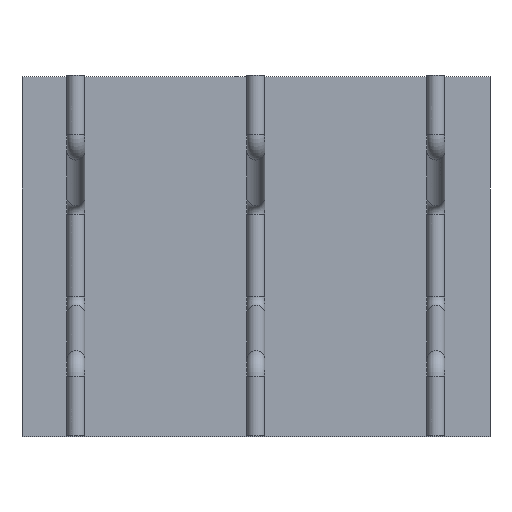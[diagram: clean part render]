
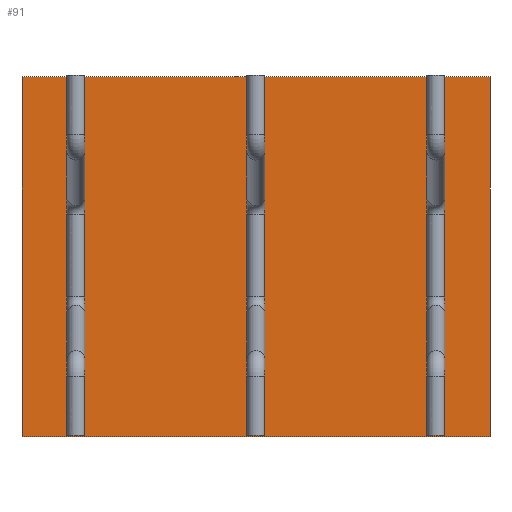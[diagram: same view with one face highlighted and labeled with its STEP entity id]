
A CAD part, top view. The second image highlights one B-rep face of the part: STEP entity #91.
In plain terms, the highlighted planar face has unit normal (0, 0, 1).
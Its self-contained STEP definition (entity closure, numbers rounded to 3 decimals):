
#52=CARTESIAN_POINT('Axis2P3D Location',(0.,0.,0.)) ;
#57=CARTESIAN_POINT('Line Origine',(0.,500.,0.)) ;
#61=CARTESIAN_POINT('Vertex',(650.,500.,0.)) ;
#63=CARTESIAN_POINT('Vertex',(-650.,500.,0.)) ;
#66=CARTESIAN_POINT('Line Origine',(-650.,0.,0.)) ;
#70=CARTESIAN_POINT('Vertex',(-650.,-500.,0.)) ;
#73=CARTESIAN_POINT('Line Origine',(0.,-500.,0.)) ;
#77=CARTESIAN_POINT('Vertex',(650.,-500.,0.)) ;
#80=CARTESIAN_POINT('Line Origine',(650.,0.,0.)) ;
#53=DIRECTION('Axis2P3D Direction',(0.,0.,1.)) ;
#54=DIRECTION('Axis2P3D XDirection',(1.,0.,0.)) ;
#58=DIRECTION('Vector Direction',(1.,0.,0.)) ;
#67=DIRECTION('Vector Direction',(0.,1.,0.)) ;
#74=DIRECTION('Vector Direction',(-1.,0.,0.)) ;
#81=DIRECTION('Vector Direction',(0.,-1.,0.)) ;
#55=AXIS2_PLACEMENT_3D('Plane Axis2P3D',#52,#53,#54) ;
#86=ORIENTED_EDGE('',*,*,#65,.T.) ;
#87=ORIENTED_EDGE('',*,*,#72,.T.) ;
#88=ORIENTED_EDGE('',*,*,#79,.T.) ;
#89=ORIENTED_EDGE('',*,*,#84,.T.) ;
#59=VECTOR('Line Direction',#58,1.) ;
#68=VECTOR('Line Direction',#67,1.) ;
#75=VECTOR('Line Direction',#74,1.) ;
#82=VECTOR('Line Direction',#81,1.) ;
#91=ADVANCED_FACE('Fill.1',(#90),#56,.T.) ;
#65=EDGE_CURVE('',#62,#64,#60,.F.) ;
#72=EDGE_CURVE('',#64,#71,#69,.F.) ;
#79=EDGE_CURVE('',#71,#78,#76,.F.) ;
#84=EDGE_CURVE('',#78,#62,#83,.F.) ;
#85=EDGE_LOOP('',(#86,#87,#88,#89)) ;
#90=FACE_OUTER_BOUND('',#85,.T.) ;
#60=LINE('Line',#57,#59) ;
#69=LINE('Line',#66,#68) ;
#76=LINE('Line',#73,#75) ;
#83=LINE('Line',#80,#82) ;
#56=PLANE('',#55) ;
#62=VERTEX_POINT('',#61) ;
#64=VERTEX_POINT('',#63) ;
#71=VERTEX_POINT('',#70) ;
#78=VERTEX_POINT('',#77) ;
